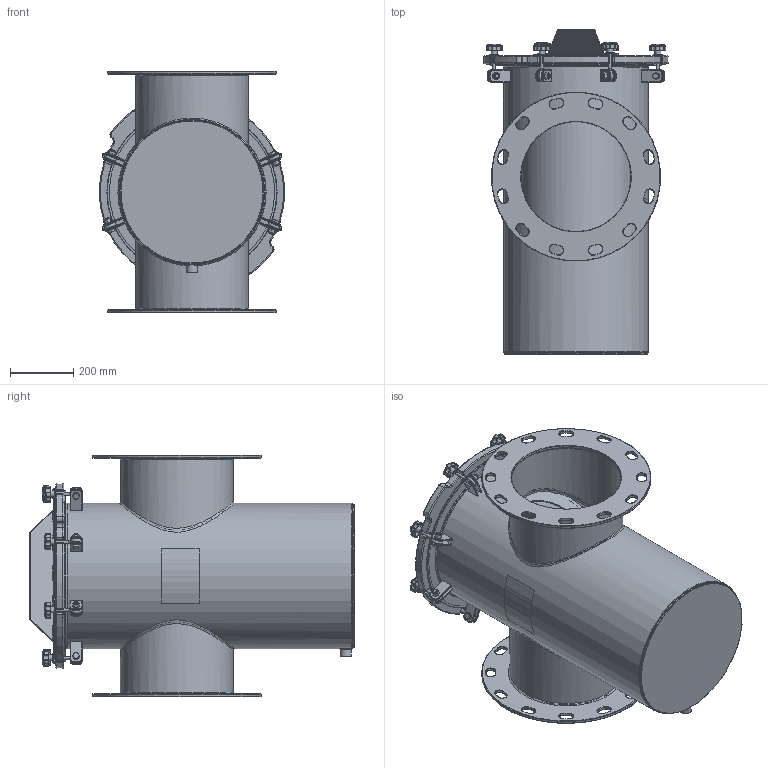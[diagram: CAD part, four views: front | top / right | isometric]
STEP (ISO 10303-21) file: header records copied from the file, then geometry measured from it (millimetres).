
FILE_DESCRIPTION(/* description */ ('18" STRAINER BODY'),/* implementation_level */ '2;1');
FILE_NAME(/* name */ 'C:\Users\20093558\Downloads\New folder\Ready for delivery - Do not Disturb -Updated with metric Flange\Workspace\SS Straight\150NBSTL14-M.stp',/* time_stamp */ '2016-09-29T20:07:54+06:00',/* author */ ('20093558'),/* organization */ (''),/* preprocessor_version */ 'ST-DEVELOPER v16.1',/* originating_system */ 'Autodesk Inventor 2016',/* authorisation */ '');
FILE_SCHEMA (('AUTOMOTIVE_DESIGN { 1 0 10303 214 3 1 1 }'));
Length unit declared in the file: inch
Products named in the file (34): NBSSBODY14_Welds; FOR NBSSBODY14; FOR 18 DIA STRAINER BODY; FOR 18 DIA STRAINER BODY_1; 18 Body; ConcentricPipe-14(_DQ) - M; 14(_DQ); For 18 Body; ASME B16.11 Half Coupling Threaded - Class 3000 3_4 x 3_4; 18 Body_1; NBSSBODY14; 150NBCVR18R2; 150NBGSK18R1; Perforated Basket 18in; Bride (Ring) 18in; Baffle 18in; Handle 18in; Bottom Strainer 18in; NBBSK14T316; BRACESTRCVR18_Welds; BRACE (BASE) FOR 18 BODY; BRACE (PROJ) FOR 18 BODY; Bumper; BRACESTRCVR18; Nut- 1_2  UNC; Bolt-1_2 x 1 1_2  UNC; EyeBolt; Washer; Knob M10; Securing Assembly with Brace; Securing Assembly without Brace; Label for 18 inch (Right); Label for 18 inch (Left); Guardian SS H&L Strainer (Inch)
Assembly tree (69 placements, depth 3):
  Guardian SS H&L Strainer (Inch)
    NBSSBODY14
      NBSSBODY14_Welds
      FOR NBSSBODY14
      FOR 18 DIA STRAINER BODY
      FOR 18 DIA STRAINER BODY_1
      18 Body  x4
      ConcentricPipe-14(_DQ) - M  x2
      14(_DQ)  x2
      For 18 Body
      ASME B16.11 Half Coupling Threaded - Class 3000 3_4 x 3_4
      18 Body_1  x16
    150NBCVR18R2
    150NBGSK18R1
    NBBSK14T316
      Perforated Basket 18in
      Bride (Ring) 18in
      Baffle 18in
      Handle 18in
      Bottom Strainer 18in
    BRACESTRCVR18
      BRACESTRCVR18_Welds
      BRACE (BASE) FOR 18 BODY
      BRACE (PROJ) FOR 18 BODY
      Bumper  x6
    Securing Assembly with Brace  x2
      Nut- 1_2  UNC
      Bolt-1_2 x 1 1_2  UNC
      EyeBolt
      Washer
      Knob M10
    Securing Assembly without Brace  x6
      Nut- 1_2  UNC
      Bolt-1_2 x 1 1_2  UNC
      EyeBolt
      Washer
      Knob M10
    Label for 18 inch (Right)
    Label for 18 inch (Left)
Bounding box: 582.69 x 1022.35 x 762 mm (x, y, z)
Volume: 21205194.5 mm3; surface area: 7407938.7 mm2
Topology: 110 solids, 110 shells, 2361 faces, 5242 edges, 3079 vertices
Faces by surface type: cylinder 845, plane 647, torus 422, cone 189, sphere 142, bspline 116
Full cylindrical faces by diameter (mm): 3.175 x11, 6.35 x1, 8.382 x8, 9.525 x16, 10.592 x8, 12.7 x8, 15.875 x16, 19 x16, 19.05 x8, 22.8 x1, 22.809 x1, 31.75 x8, 35.052 x1, 346.075 x2, 350.042 x4, 352.425 x2, 355.6 x7, 358.14 x1, 444.5 x3, 450.85 x2, 457.2 x3, 463.55 x1, 520.7 x1, 527.05 x1, 533.4 x2, 536.575 x1
Entity records: 35651 total; most frequent: CARTESIAN_POINT 11746, DIRECTION 5165, ORIENTED_EDGE 4326, EDGE_CURVE 2163, AXIS2_PLACEMENT_3D 2136, VERTEX_POINT 1341, EDGE_LOOP 1170, ADVANCED_FACE 1001
